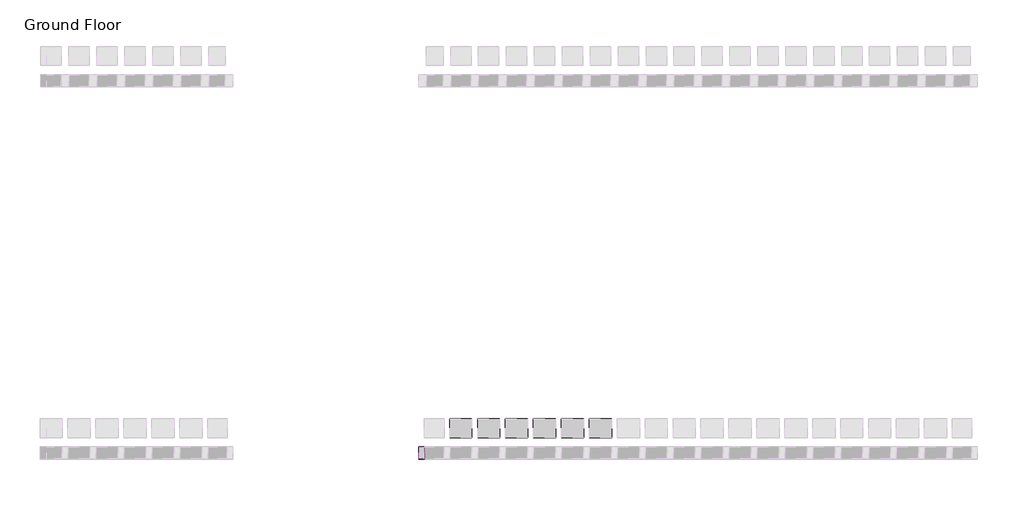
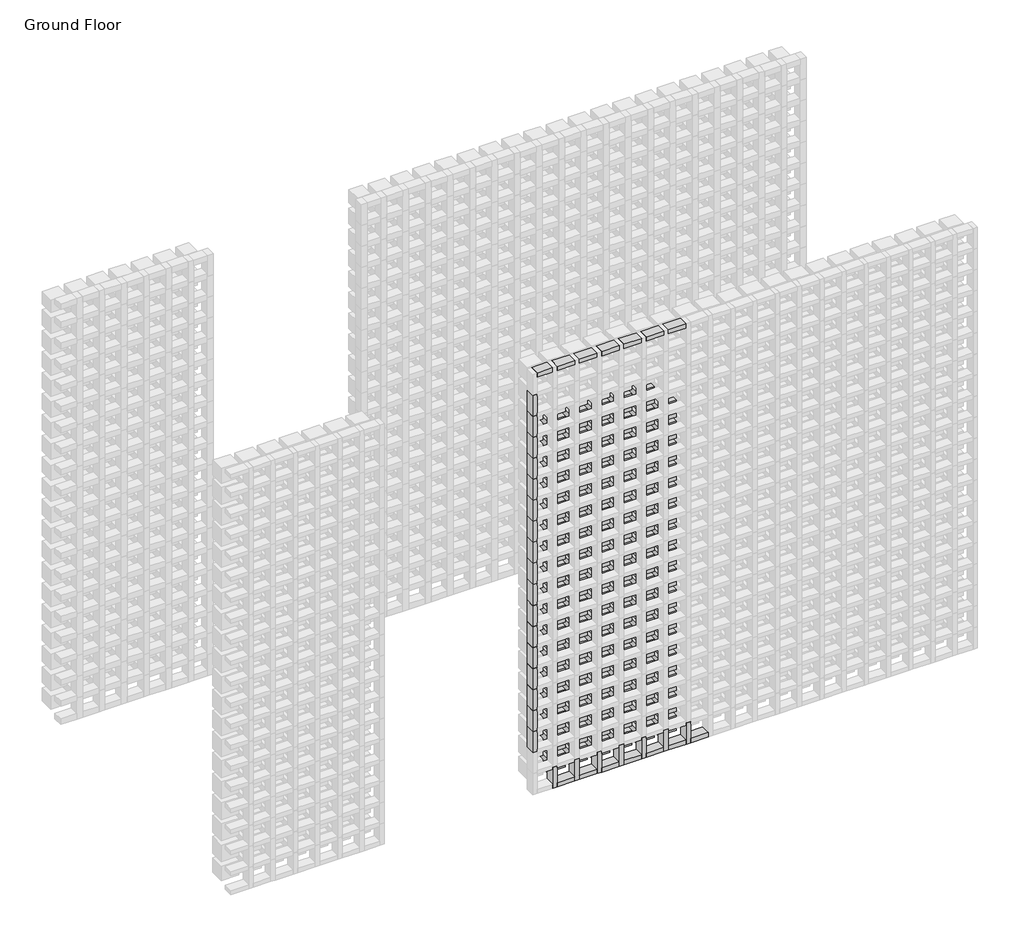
# One storey, part 65 of 350: 101 plates, 38 members.
"""IFC4 building model written with IfcOpenShell, lengths in millimetres."""

from ifc_helpers import new_model, si_unit, origin, place, context, project, spatial, transform, mapped, element, save
from components import rectangular_mullion_5b501421, rectangular_mullion_f2fcf417, rectangular_mullion_51467dcc, rectangular_mullion_d4c9a775, rectangular_mullion_ed01f2b6, empty_system_panel_empty_a57e421f, empty_system_panel_empty_fe50b430

model = new_model("IFC4")

# Units and contexts
model_context = context("Model", 3, world=origin())
ifc_project = project(units=[si_unit("LENGTHUNIT", "METRE", prefix="MILLI")], contexts=[model_context])

# Site, building, storey
site = spatial("IfcSite", under=ifc_project)
building = spatial("IfcBuilding", under=site)
storey = spatial("IfcBuildingStorey", under=building, Name="Ground Floor", Elevation=0.0)

# Members
placement = place(None, origin())
rectangular_mullion_shape = rectangular_mullion_5b501421(model_context)
element("IfcMember", 1, ObjectType="Rectangular Mullion : Batten_Timber_Modinex_Austratus_Grid_Fascia_30x65_Hemlock", at=placement, inside=storey, context=model_context, shape_type="MappedRepresentation", body=[
    mapped(rectangular_mullion_shape, transform((10066.4361642, 38968.2978302, 0.0), x_axis=(1.0, 0.0, 0.0), y_axis=(0.0, -1.0, 0.0), z_axis=(0.0, 0.0, -1.0))),
])
element("IfcMember", 2, ObjectType="Rectangular Mullion : Batten_Timber_Modinex_Austratus_Grid_Fascia_30x65_Hemlock", at=placement, inside=storey, context=model_context, shape_type="MappedRepresentation", body=[
    mapped(rectangular_mullion_shape, transform((10216.4361642, 38968.2978302, 0.0), x_axis=(1.0, 0.0, 0.0), y_axis=(0.0, -1.0, 0.0), z_axis=(0.0, 0.0, -1.0))),
])
element("IfcMember", 3, ObjectType="Rectangular Mullion : Batten_Timber_Modinex_Austratus_Grid_Fascia_30x65_Hemlock", at=placement, inside=storey, context=model_context, shape_type="MappedRepresentation", body=[
    mapped(rectangular_mullion_shape, transform((10366.4361642, 38968.2978302, 0.0), x_axis=(1.0, 0.0, 0.0), y_axis=(0.0, -1.0, 0.0), z_axis=(0.0, 0.0, -1.0))),
])
element("IfcMember", 4, ObjectType="Rectangular Mullion : Batten_Timber_Modinex_Austratus_Grid_Fascia_30x65_Hemlock", at=placement, inside=storey, context=model_context, shape_type="MappedRepresentation", body=[
    mapped(rectangular_mullion_shape, transform((10516.4361642, 38968.2978302, 0.0), x_axis=(1.0, 0.0, 0.0), y_axis=(0.0, -1.0, 0.0), z_axis=(0.0, 0.0, -1.0))),
])
element("IfcMember", 5, ObjectType="Rectangular Mullion : Batten_Timber_Modinex_Austratus_Grid_Fascia_30x65_Hemlock", at=placement, inside=storey, context=model_context, shape_type="MappedRepresentation", body=[
    mapped(rectangular_mullion_shape, transform((10666.4361642, 38968.2978302, 0.0), x_axis=(1.0, 0.0, 0.0), y_axis=(0.0, -1.0, 0.0), z_axis=(0.0, 0.0, -1.0))),
])
element("IfcMember", 6, ObjectType="Rectangular Mullion : Batten_Timber_Modinex_Austratus_Grid_Fascia_30x65_Hemlock", at=placement, inside=storey, context=model_context, shape_type="MappedRepresentation", body=[
    mapped(rectangular_mullion_shape, transform((10816.4361642, 38968.2978302, 0.0), x_axis=(1.0, 0.0, 0.0), y_axis=(0.0, -1.0, 0.0), z_axis=(0.0, 0.0, -1.0))),
])
element("IfcMember", 7, ObjectType="Rectangular Mullion : Batten_Timber_Modinex_Austratus_Grid_Fascia_30x65_Hemlock", at=placement, inside=storey, context=model_context, shape_type="MappedRepresentation", body=[
    mapped(rectangular_mullion_shape, transform((10966.4361642, 38968.2978302, 0.0), x_axis=(1.0, 0.0, 0.0), y_axis=(0.0, -1.0, 0.0), z_axis=(0.0, 0.0, -1.0))),
])
rectangular_mullion_2_shape = rectangular_mullion_f2fcf417(model_context)
element("IfcMember", 8, ObjectType="Rectangular Mullion : Batten_Timber_Modinex_Austratus_Grid_Fascia_30x65_Hemlock", at=placement, inside=storey, context=model_context, shape_type="MappedRepresentation", body=[
    mapped(rectangular_mullion_2_shape, transform((10051.4361642, 38968.2978302, 3000.0), x_axis=(0.0, 0.0, 1.0), y_axis=(0.0, -1.0, 0.0), z_axis=(1.0, 0.0, 0.0))),
])
rectangular_mullion_3_shape = rectangular_mullion_51467dcc(model_context)
element("IfcMember", 9, ObjectType="Rectangular Mullion : Batten_Timber_Modinex_Austratus_Grid_Fascia_30x65_Hemlock", at=placement, inside=storey, context=model_context, shape_type="MappedRepresentation", body=[
    mapped(rectangular_mullion_3_shape, transform((10201.4361642, 38968.2978302, 3000.0), x_axis=(0.0, 0.0, 1.0), y_axis=(0.0, -1.0, 0.0), z_axis=(1.0, 0.0, 0.0))),
])
element("IfcMember", 10, ObjectType="Rectangular Mullion : Batten_Timber_Modinex_Austratus_Grid_Fascia_30x65_Hemlock", at=placement, inside=storey, context=model_context, shape_type="MappedRepresentation", body=[
    mapped(rectangular_mullion_3_shape, transform((10351.4361642, 38968.2978302, 3000.0), x_axis=(0.0, 0.0, 1.0), y_axis=(0.0, -1.0, 0.0), z_axis=(1.0, 0.0, 0.0))),
])
element("IfcMember", 11, ObjectType="Rectangular Mullion : Batten_Timber_Modinex_Austratus_Grid_Fascia_30x65_Hemlock", at=placement, inside=storey, context=model_context, shape_type="MappedRepresentation", body=[
    mapped(rectangular_mullion_3_shape, transform((10501.4361642, 38968.2978302, 3000.0), x_axis=(0.0, 0.0, 1.0), y_axis=(0.0, -1.0, 0.0), z_axis=(1.0, 0.0, 0.0))),
])
element("IfcMember", 12, ObjectType="Rectangular Mullion : Batten_Timber_Modinex_Austratus_Grid_Fascia_30x65_Hemlock", at=placement, inside=storey, context=model_context, shape_type="MappedRepresentation", body=[
    mapped(rectangular_mullion_3_shape, transform((10651.4361642, 38968.2978302, 3000.0), x_axis=(0.0, 0.0, 1.0), y_axis=(0.0, -1.0, 0.0), z_axis=(1.0, 0.0, 0.0))),
])
element("IfcMember", 13, ObjectType="Rectangular Mullion : Batten_Timber_Modinex_Austratus_Grid_Fascia_30x65_Hemlock", at=placement, inside=storey, context=model_context, shape_type="MappedRepresentation", body=[
    mapped(rectangular_mullion_3_shape, transform((10801.4361642, 38968.2978302, 3000.0), x_axis=(0.0, 0.0, 1.0), y_axis=(0.0, -1.0, 0.0), z_axis=(1.0, 0.0, 0.0))),
])
element("IfcMember", 14, ObjectType="Rectangular Mullion : Batten_Timber_Modinex_Austratus_Grid_Fascia_30x65_Hemlock", at=placement, inside=storey, context=model_context, shape_type="MappedRepresentation", body=[
    mapped(rectangular_mullion_3_shape, transform((10951.4361642, 38968.2978302, 3000.0), x_axis=(0.0, 0.0, 1.0), y_axis=(0.0, -1.0, 0.0), z_axis=(1.0, 0.0, 0.0))),
])
rectangular_mullion_4_shape = rectangular_mullion_d4c9a775(model_context)
element("IfcMember", 15, ObjectType="Rectangular Mullion : Batten_Timber_Modinex_Austratus_Grid_Fascia_30x65_Hemlock", at=placement, inside=storey, context=model_context, shape_type="MappedRepresentation", body=[
    mapped(rectangular_mullion_4_shape, transform((10081.4361642, 38968.2978302, 0.0), x_axis=(0.0, 0.0, -1.0), y_axis=(0.0, -1.0, 0.0), z_axis=(-1.0, 0.0, 0.0))),
])
element("IfcMember", 16, ObjectType="Rectangular Mullion : Batten_Timber_Modinex_Austratus_Grid_Fascia_30x65_Hemlock", at=placement, inside=storey, context=model_context, shape_type="MappedRepresentation", body=[
    mapped(rectangular_mullion_4_shape, transform((10231.4361642, 38968.2978302, 0.0), x_axis=(0.0, 0.0, -1.0), y_axis=(0.0, -1.0, 0.0), z_axis=(-1.0, 0.0, 0.0))),
])
element("IfcMember", 17, ObjectType="Rectangular Mullion : Batten_Timber_Modinex_Austratus_Grid_Fascia_30x65_Hemlock", at=placement, inside=storey, context=model_context, shape_type="MappedRepresentation", body=[
    mapped(rectangular_mullion_4_shape, transform((10381.4361642, 38968.2978302, 0.0), x_axis=(0.0, 0.0, -1.0), y_axis=(0.0, -1.0, 0.0), z_axis=(-1.0, 0.0, 0.0))),
])
element("IfcMember", 18, ObjectType="Rectangular Mullion : Batten_Timber_Modinex_Austratus_Grid_Fascia_30x65_Hemlock", at=placement, inside=storey, context=model_context, shape_type="MappedRepresentation", body=[
    mapped(rectangular_mullion_4_shape, transform((10531.4361642, 38968.2978302, 0.0), x_axis=(0.0, 0.0, -1.0), y_axis=(0.0, -1.0, 0.0), z_axis=(-1.0, 0.0, 0.0))),
])
element("IfcMember", 19, ObjectType="Rectangular Mullion : Batten_Timber_Modinex_Austratus_Grid_Fascia_30x65_Hemlock", at=placement, inside=storey, context=model_context, shape_type="MappedRepresentation", body=[
    mapped(rectangular_mullion_4_shape, transform((10681.4361642, 38968.2978302, 0.0), x_axis=(0.0, 0.0, -1.0), y_axis=(0.0, -1.0, 0.0), z_axis=(-1.0, 0.0, 0.0))),
])
element("IfcMember", 20, ObjectType="Rectangular Mullion : Batten_Timber_Modinex_Austratus_Grid_Fascia_30x65_Hemlock", at=placement, inside=storey, context=model_context, shape_type="MappedRepresentation", body=[
    mapped(rectangular_mullion_4_shape, transform((10831.4361642, 38968.2978302, 0.0), x_axis=(0.0, 0.0, -1.0), y_axis=(0.0, -1.0, 0.0), z_axis=(-1.0, 0.0, 0.0))),
])
element("IfcMember", 21, ObjectType="Rectangular Mullion : Batten_Timber_Modinex_Austratus_Grid_Fascia_30x65_Hemlock", at=placement, inside=storey, context=model_context, shape_type="MappedRepresentation", body=[
    mapped(rectangular_mullion_4_shape, transform((10981.4361642, 38968.2978302, 0.0), x_axis=(0.0, 0.0, -1.0), y_axis=(0.0, -1.0, 0.0), z_axis=(-1.0, 0.0, 0.0))),
])
rectangular_mullion_5_shape = rectangular_mullion_ed01f2b6(model_context)
element("IfcMember", 22, ObjectType="Rectangular Mullion : Batten_Timber_Modinex_Austratus_Grid_Fascia_30x65_Hemlock", at=placement, inside=storey, context=model_context, shape_type="MappedRepresentation", body=[
    mapped(rectangular_mullion_5_shape, transform((9916.4361639, 38968.2978302, 450.0), x_axis=(-1.0, 0.0, 0.0), y_axis=(0.0, -1.0, 0.0), z_axis=(0.0, 0.0, 1.0))),
])
element("IfcMember", 23, ObjectType="Rectangular Mullion : Batten_Timber_Modinex_Austratus_Grid_Fascia_30x65_Hemlock", at=placement, inside=storey, context=model_context, shape_type="MappedRepresentation", body=[
    mapped(rectangular_mullion_5_shape, transform((9916.4361639, 38968.2978302, 600.0), x_axis=(-1.0, 0.0, 0.0), y_axis=(0.0, -1.0, 0.0), z_axis=(0.0, 0.0, 1.0))),
])
element("IfcMember", 24, ObjectType="Rectangular Mullion : Batten_Timber_Modinex_Austratus_Grid_Fascia_30x65_Hemlock", at=placement, inside=storey, context=model_context, shape_type="MappedRepresentation", body=[
    mapped(rectangular_mullion_5_shape, transform((9916.4361639, 38968.2978302, 750.0), x_axis=(-1.0, 0.0, 0.0), y_axis=(0.0, -1.0, 0.0), z_axis=(0.0, 0.0, 1.0))),
])
element("IfcMember", 25, ObjectType="Rectangular Mullion : Batten_Timber_Modinex_Austratus_Grid_Fascia_30x65_Hemlock", at=placement, inside=storey, context=model_context, shape_type="MappedRepresentation", body=[
    mapped(rectangular_mullion_5_shape, transform((9916.4361639, 38968.2978302, 900.0), x_axis=(-1.0, 0.0, 0.0), y_axis=(0.0, -1.0, 0.0), z_axis=(0.0, 0.0, 1.0))),
])
element("IfcMember", 26, ObjectType="Rectangular Mullion : Batten_Timber_Modinex_Austratus_Grid_Fascia_30x65_Hemlock", at=placement, inside=storey, context=model_context, shape_type="MappedRepresentation", body=[
    mapped(rectangular_mullion_5_shape, transform((9916.4361639, 38968.2978302, 1050.0), x_axis=(-1.0, 0.0, 0.0), y_axis=(0.0, -1.0, 0.0), z_axis=(0.0, 0.0, 1.0))),
])
element("IfcMember", 27, ObjectType="Rectangular Mullion : Batten_Timber_Modinex_Austratus_Grid_Fascia_30x65_Hemlock", at=placement, inside=storey, context=model_context, shape_type="MappedRepresentation", body=[
    mapped(rectangular_mullion_5_shape, transform((9916.4361639, 38968.2978302, 1200.0), x_axis=(-1.0, 0.0, 0.0), y_axis=(0.0, -1.0, 0.0), z_axis=(0.0, 0.0, 1.0))),
])
element("IfcMember", 28, ObjectType="Rectangular Mullion : Batten_Timber_Modinex_Austratus_Grid_Fascia_30x65_Hemlock", at=placement, inside=storey, context=model_context, shape_type="MappedRepresentation", body=[
    mapped(rectangular_mullion_5_shape, transform((9916.4361639, 38968.2978302, 1350.0), x_axis=(-1.0, 0.0, 0.0), y_axis=(0.0, -1.0, 0.0), z_axis=(0.0, 0.0, 1.0))),
])
element("IfcMember", 29, ObjectType="Rectangular Mullion : Batten_Timber_Modinex_Austratus_Grid_Fascia_30x65_Hemlock", at=placement, inside=storey, context=model_context, shape_type="MappedRepresentation", body=[
    mapped(rectangular_mullion_5_shape, transform((9916.4361639, 38968.2978302, 1500.0), x_axis=(-1.0, 0.0, 0.0), y_axis=(0.0, -1.0, 0.0), z_axis=(0.0, 0.0, 1.0))),
])
element("IfcMember", 30, ObjectType="Rectangular Mullion : Batten_Timber_Modinex_Austratus_Grid_Fascia_30x65_Hemlock", at=placement, inside=storey, context=model_context, shape_type="MappedRepresentation", body=[
    mapped(rectangular_mullion_5_shape, transform((9916.4361639, 38968.2978302, 1650.0), x_axis=(-1.0, 0.0, 0.0), y_axis=(0.0, -1.0, 0.0), z_axis=(0.0, 0.0, 1.0))),
])
element("IfcMember", 31, ObjectType="Rectangular Mullion : Batten_Timber_Modinex_Austratus_Grid_Fascia_30x65_Hemlock", at=placement, inside=storey, context=model_context, shape_type="MappedRepresentation", body=[
    mapped(rectangular_mullion_5_shape, transform((9916.4361639, 38968.2978302, 1800.0), x_axis=(-1.0, 0.0, 0.0), y_axis=(0.0, -1.0, 0.0), z_axis=(0.0, 0.0, 1.0))),
])
element("IfcMember", 32, ObjectType="Rectangular Mullion : Batten_Timber_Modinex_Austratus_Grid_Fascia_30x65_Hemlock", at=placement, inside=storey, context=model_context, shape_type="MappedRepresentation", body=[
    mapped(rectangular_mullion_5_shape, transform((9916.4361639, 38968.2978302, 1950.0), x_axis=(-1.0, 0.0, 0.0), y_axis=(0.0, -1.0, 0.0), z_axis=(0.0, 0.0, 1.0))),
])
element("IfcMember", 33, ObjectType="Rectangular Mullion : Batten_Timber_Modinex_Austratus_Grid_Fascia_30x65_Hemlock", at=placement, inside=storey, context=model_context, shape_type="MappedRepresentation", body=[
    mapped(rectangular_mullion_5_shape, transform((9916.4361639, 38968.2978302, 2100.0), x_axis=(-1.0, 0.0, 0.0), y_axis=(0.0, -1.0, 0.0), z_axis=(0.0, 0.0, 1.0))),
])
element("IfcMember", 34, ObjectType="Rectangular Mullion : Batten_Timber_Modinex_Austratus_Grid_Fascia_30x65_Hemlock", at=placement, inside=storey, context=model_context, shape_type="MappedRepresentation", body=[
    mapped(rectangular_mullion_5_shape, transform((9916.4361639, 38968.2978302, 2250.0), x_axis=(-1.0, 0.0, 0.0), y_axis=(0.0, -1.0, 0.0), z_axis=(0.0, 0.0, 1.0))),
])
element("IfcMember", 35, ObjectType="Rectangular Mullion : Batten_Timber_Modinex_Austratus_Grid_Fascia_30x65_Hemlock", at=placement, inside=storey, context=model_context, shape_type="MappedRepresentation", body=[
    mapped(rectangular_mullion_5_shape, transform((9916.4361639, 38968.2978302, 2400.0), x_axis=(-1.0, 0.0, 0.0), y_axis=(0.0, -1.0, 0.0), z_axis=(0.0, 0.0, 1.0))),
])
element("IfcMember", 36, ObjectType="Rectangular Mullion : Batten_Timber_Modinex_Austratus_Grid_Fascia_30x65_Hemlock", at=placement, inside=storey, context=model_context, shape_type="MappedRepresentation", body=[
    mapped(rectangular_mullion_5_shape, transform((9916.4361639, 38968.2978302, 2550.0), x_axis=(-1.0, 0.0, 0.0), y_axis=(0.0, -1.0, 0.0), z_axis=(0.0, 0.0, 1.0))),
])
element("IfcMember", 37, ObjectType="Rectangular Mullion : Batten_Timber_Modinex_Austratus_Grid_Fascia_30x65_Hemlock", at=placement, inside=storey, context=model_context, shape_type="MappedRepresentation", body=[
    mapped(rectangular_mullion_5_shape, transform((9916.4361639, 38968.2978302, 2700.0), x_axis=(-1.0, 0.0, 0.0), y_axis=(0.0, -1.0, 0.0), z_axis=(0.0, 0.0, 1.0))),
])
element("IfcMember", 38, ObjectType="Rectangular Mullion : Batten_Timber_Modinex_Austratus_Grid_Fascia_30x65_Hemlock", at=placement, inside=storey, context=model_context, shape_type="MappedRepresentation", body=[
    mapped(rectangular_mullion_5_shape, transform((9916.4361639, 38968.2978302, 2850.0), x_axis=(-1.0, 0.0, 0.0), y_axis=(0.0, -1.0, 0.0), z_axis=(0.0, 0.0, 1.0))),
])

# Plates
empty_system_panel_empty_shape = empty_system_panel_empty_a57e421f(model_context)
element("IfcPlate", 39, ObjectType="Empty System Panel : Empty", at=placement, inside=storey, context=model_context, shape_type="MappedRepresentation", body=[
    mapped(empty_system_panel_empty_shape, transform((10141.4361642, 38968.2978302, 165.0), x_axis=(1.0, 0.0, 0.0), y_axis=(0.0, 1.0, 0.0), z_axis=(0.0, 0.0, 1.0))),
])
element("IfcPlate", 40, ObjectType="Empty System Panel : Empty", at=placement, inside=storey, context=model_context, shape_type="MappedRepresentation", body=[
    mapped(empty_system_panel_empty_shape, transform((10291.4361642, 38968.2978302, 165.0), x_axis=(1.0, 0.0, 0.0), y_axis=(0.0, 1.0, 0.0), z_axis=(0.0, 0.0, 1.0))),
])
element("IfcPlate", 41, ObjectType="Empty System Panel : Empty", at=placement, inside=storey, context=model_context, shape_type="MappedRepresentation", body=[
    mapped(empty_system_panel_empty_shape, transform((10441.4361642, 38968.2978302, 165.0), x_axis=(1.0, 0.0, 0.0), y_axis=(0.0, 1.0, 0.0), z_axis=(0.0, 0.0, 1.0))),
])
element("IfcPlate", 42, ObjectType="Empty System Panel : Empty", at=placement, inside=storey, context=model_context, shape_type="MappedRepresentation", body=[
    mapped(empty_system_panel_empty_shape, transform((10591.4361642, 38968.2978302, 165.0), x_axis=(1.0, 0.0, 0.0), y_axis=(0.0, 1.0, 0.0), z_axis=(0.0, 0.0, 1.0))),
])
element("IfcPlate", 43, ObjectType="Empty System Panel : Empty", at=placement, inside=storey, context=model_context, shape_type="MappedRepresentation", body=[
    mapped(empty_system_panel_empty_shape, transform((10741.4361642, 38968.2978302, 165.0), x_axis=(1.0, 0.0, 0.0), y_axis=(0.0, 1.0, 0.0), z_axis=(0.0, 0.0, 1.0))),
])
element("IfcPlate", 44, ObjectType="Empty System Panel : Empty", at=placement, inside=storey, context=model_context, shape_type="MappedRepresentation", body=[
    mapped(empty_system_panel_empty_shape, transform((10891.4361642, 38968.2978302, 165.0), x_axis=(1.0, 0.0, 0.0), y_axis=(0.0, 1.0, 0.0), z_axis=(0.0, 0.0, 1.0))),
])
element("IfcPlate", 45, ObjectType="Empty System Panel : Empty", at=placement, inside=storey, context=model_context, shape_type="MappedRepresentation", body=[
    mapped(empty_system_panel_empty_shape, transform((10141.4361642, 38968.2978302, 315.0), x_axis=(1.0, 0.0, 0.0), y_axis=(0.0, 1.0, 0.0), z_axis=(0.0, 0.0, 1.0))),
])
element("IfcPlate", 46, ObjectType="Empty System Panel : Empty", at=placement, inside=storey, context=model_context, shape_type="MappedRepresentation", body=[
    mapped(empty_system_panel_empty_shape, transform((10291.4361642, 38968.2978302, 315.0), x_axis=(1.0, 0.0, 0.0), y_axis=(0.0, 1.0, 0.0), z_axis=(0.0, 0.0, 1.0))),
])
element("IfcPlate", 47, ObjectType="Empty System Panel : Empty", at=placement, inside=storey, context=model_context, shape_type="MappedRepresentation", body=[
    mapped(empty_system_panel_empty_shape, transform((10441.4361642, 38968.2978302, 315.0), x_axis=(1.0, 0.0, 0.0), y_axis=(0.0, 1.0, 0.0), z_axis=(0.0, 0.0, 1.0))),
])
element("IfcPlate", 48, ObjectType="Empty System Panel : Empty", at=placement, inside=storey, context=model_context, shape_type="MappedRepresentation", body=[
    mapped(empty_system_panel_empty_shape, transform((10591.4361642, 38968.2978302, 315.0), x_axis=(1.0, 0.0, 0.0), y_axis=(0.0, 1.0, 0.0), z_axis=(0.0, 0.0, 1.0))),
])
element("IfcPlate", 49, ObjectType="Empty System Panel : Empty", at=placement, inside=storey, context=model_context, shape_type="MappedRepresentation", body=[
    mapped(empty_system_panel_empty_shape, transform((10741.4361642, 38968.2978302, 315.0), x_axis=(1.0, 0.0, 0.0), y_axis=(0.0, 1.0, 0.0), z_axis=(0.0, 0.0, 1.0))),
])
element("IfcPlate", 50, ObjectType="Empty System Panel : Empty", at=placement, inside=storey, context=model_context, shape_type="MappedRepresentation", body=[
    mapped(empty_system_panel_empty_shape, transform((10891.4361642, 38968.2978302, 315.0), x_axis=(1.0, 0.0, 0.0), y_axis=(0.0, 1.0, 0.0), z_axis=(0.0, 0.0, 1.0))),
])
element("IfcPlate", 51, ObjectType="Empty System Panel : Empty", at=placement, inside=storey, context=model_context, shape_type="MappedRepresentation", body=[
    mapped(empty_system_panel_empty_shape, transform((10141.4361642, 38968.2978302, 465.0), x_axis=(1.0, 0.0, 0.0), y_axis=(0.0, 1.0, 0.0), z_axis=(0.0, 0.0, 1.0))),
])
element("IfcPlate", 52, ObjectType="Empty System Panel : Empty", at=placement, inside=storey, context=model_context, shape_type="MappedRepresentation", body=[
    mapped(empty_system_panel_empty_shape, transform((10291.4361642, 38968.2978302, 465.0), x_axis=(1.0, 0.0, 0.0), y_axis=(0.0, 1.0, 0.0), z_axis=(0.0, 0.0, 1.0))),
])
element("IfcPlate", 53, ObjectType="Empty System Panel : Empty", at=placement, inside=storey, context=model_context, shape_type="MappedRepresentation", body=[
    mapped(empty_system_panel_empty_shape, transform((10441.4361642, 38968.2978302, 465.0), x_axis=(1.0, 0.0, 0.0), y_axis=(0.0, 1.0, 0.0), z_axis=(0.0, 0.0, 1.0))),
])
element("IfcPlate", 54, ObjectType="Empty System Panel : Empty", at=placement, inside=storey, context=model_context, shape_type="MappedRepresentation", body=[
    mapped(empty_system_panel_empty_shape, transform((10591.4361642, 38968.2978302, 465.0), x_axis=(1.0, 0.0, 0.0), y_axis=(0.0, 1.0, 0.0), z_axis=(0.0, 0.0, 1.0))),
])
element("IfcPlate", 55, ObjectType="Empty System Panel : Empty", at=placement, inside=storey, context=model_context, shape_type="MappedRepresentation", body=[
    mapped(empty_system_panel_empty_shape, transform((10741.4361642, 38968.2978302, 465.0), x_axis=(1.0, 0.0, 0.0), y_axis=(0.0, 1.0, 0.0), z_axis=(0.0, 0.0, 1.0))),
])
element("IfcPlate", 56, ObjectType="Empty System Panel : Empty", at=placement, inside=storey, context=model_context, shape_type="MappedRepresentation", body=[
    mapped(empty_system_panel_empty_shape, transform((10891.4361642, 38968.2978302, 465.0), x_axis=(1.0, 0.0, 0.0), y_axis=(0.0, 1.0, 0.0), z_axis=(0.0, 0.0, 1.0))),
])
element("IfcPlate", 57, ObjectType="Empty System Panel : Empty", at=placement, inside=storey, context=model_context, shape_type="MappedRepresentation", body=[
    mapped(empty_system_panel_empty_shape, transform((10141.4361642, 38968.2978302, 615.0), x_axis=(1.0, 0.0, 0.0), y_axis=(0.0, 1.0, 0.0), z_axis=(0.0, 0.0, 1.0))),
])
element("IfcPlate", 58, ObjectType="Empty System Panel : Empty", at=placement, inside=storey, context=model_context, shape_type="MappedRepresentation", body=[
    mapped(empty_system_panel_empty_shape, transform((10291.4361642, 38968.2978302, 615.0), x_axis=(1.0, 0.0, 0.0), y_axis=(0.0, 1.0, 0.0), z_axis=(0.0, 0.0, 1.0))),
])
element("IfcPlate", 59, ObjectType="Empty System Panel : Empty", at=placement, inside=storey, context=model_context, shape_type="MappedRepresentation", body=[
    mapped(empty_system_panel_empty_shape, transform((10441.4361642, 38968.2978302, 615.0), x_axis=(1.0, 0.0, 0.0), y_axis=(0.0, 1.0, 0.0), z_axis=(0.0, 0.0, 1.0))),
])
element("IfcPlate", 60, ObjectType="Empty System Panel : Empty", at=placement, inside=storey, context=model_context, shape_type="MappedRepresentation", body=[
    mapped(empty_system_panel_empty_shape, transform((10591.4361642, 38968.2978302, 615.0), x_axis=(1.0, 0.0, 0.0), y_axis=(0.0, 1.0, 0.0), z_axis=(0.0, 0.0, 1.0))),
])
element("IfcPlate", 61, ObjectType="Empty System Panel : Empty", at=placement, inside=storey, context=model_context, shape_type="MappedRepresentation", body=[
    mapped(empty_system_panel_empty_shape, transform((10741.4361642, 38968.2978302, 615.0), x_axis=(1.0, 0.0, 0.0), y_axis=(0.0, 1.0, 0.0), z_axis=(0.0, 0.0, 1.0))),
])
element("IfcPlate", 62, ObjectType="Empty System Panel : Empty", at=placement, inside=storey, context=model_context, shape_type="MappedRepresentation", body=[
    mapped(empty_system_panel_empty_shape, transform((10891.4361642, 38968.2978302, 615.0), x_axis=(1.0, 0.0, 0.0), y_axis=(0.0, 1.0, 0.0), z_axis=(0.0, 0.0, 1.0))),
])
element("IfcPlate", 63, ObjectType="Empty System Panel : Empty", at=placement, inside=storey, context=model_context, shape_type="MappedRepresentation", body=[
    mapped(empty_system_panel_empty_shape, transform((10141.4361642, 38968.2978302, 765.0), x_axis=(1.0, 0.0, 0.0), y_axis=(0.0, 1.0, 0.0), z_axis=(0.0, 0.0, 1.0))),
])
element("IfcPlate", 64, ObjectType="Empty System Panel : Empty", at=placement, inside=storey, context=model_context, shape_type="MappedRepresentation", body=[
    mapped(empty_system_panel_empty_shape, transform((10291.4361642, 38968.2978302, 765.0), x_axis=(1.0, 0.0, 0.0), y_axis=(0.0, 1.0, 0.0), z_axis=(0.0, 0.0, 1.0))),
])
element("IfcPlate", 65, ObjectType="Empty System Panel : Empty", at=placement, inside=storey, context=model_context, shape_type="MappedRepresentation", body=[
    mapped(empty_system_panel_empty_shape, transform((10441.4361642, 38968.2978302, 765.0), x_axis=(1.0, 0.0, 0.0), y_axis=(0.0, 1.0, 0.0), z_axis=(0.0, 0.0, 1.0))),
])
element("IfcPlate", 66, ObjectType="Empty System Panel : Empty", at=placement, inside=storey, context=model_context, shape_type="MappedRepresentation", body=[
    mapped(empty_system_panel_empty_shape, transform((10591.4361642, 38968.2978302, 765.0), x_axis=(1.0, 0.0, 0.0), y_axis=(0.0, 1.0, 0.0), z_axis=(0.0, 0.0, 1.0))),
])
element("IfcPlate", 67, ObjectType="Empty System Panel : Empty", at=placement, inside=storey, context=model_context, shape_type="MappedRepresentation", body=[
    mapped(empty_system_panel_empty_shape, transform((10741.4361642, 38968.2978302, 765.0), x_axis=(1.0, 0.0, 0.0), y_axis=(0.0, 1.0, 0.0), z_axis=(0.0, 0.0, 1.0))),
])
element("IfcPlate", 68, ObjectType="Empty System Panel : Empty", at=placement, inside=storey, context=model_context, shape_type="MappedRepresentation", body=[
    mapped(empty_system_panel_empty_shape, transform((10891.4361642, 38968.2978302, 765.0), x_axis=(1.0, 0.0, 0.0), y_axis=(0.0, 1.0, 0.0), z_axis=(0.0, 0.0, 1.0))),
])
element("IfcPlate", 69, ObjectType="Empty System Panel : Empty", at=placement, inside=storey, context=model_context, shape_type="MappedRepresentation", body=[
    mapped(empty_system_panel_empty_shape, transform((10141.4361642, 38968.2978302, 915.0), x_axis=(1.0, 0.0, 0.0), y_axis=(0.0, 1.0, 0.0), z_axis=(0.0, 0.0, 1.0))),
])
element("IfcPlate", 70, ObjectType="Empty System Panel : Empty", at=placement, inside=storey, context=model_context, shape_type="MappedRepresentation", body=[
    mapped(empty_system_panel_empty_shape, transform((10291.4361642, 38968.2978302, 915.0), x_axis=(1.0, 0.0, 0.0), y_axis=(0.0, 1.0, 0.0), z_axis=(0.0, 0.0, 1.0))),
])
element("IfcPlate", 71, ObjectType="Empty System Panel : Empty", at=placement, inside=storey, context=model_context, shape_type="MappedRepresentation", body=[
    mapped(empty_system_panel_empty_shape, transform((10441.4361642, 38968.2978302, 915.0), x_axis=(1.0, 0.0, 0.0), y_axis=(0.0, 1.0, 0.0), z_axis=(0.0, 0.0, 1.0))),
])
element("IfcPlate", 72, ObjectType="Empty System Panel : Empty", at=placement, inside=storey, context=model_context, shape_type="MappedRepresentation", body=[
    mapped(empty_system_panel_empty_shape, transform((10591.4361642, 38968.2978302, 915.0), x_axis=(1.0, 0.0, 0.0), y_axis=(0.0, 1.0, 0.0), z_axis=(0.0, 0.0, 1.0))),
])
element("IfcPlate", 73, ObjectType="Empty System Panel : Empty", at=placement, inside=storey, context=model_context, shape_type="MappedRepresentation", body=[
    mapped(empty_system_panel_empty_shape, transform((10741.4361642, 38968.2978302, 915.0), x_axis=(1.0, 0.0, 0.0), y_axis=(0.0, 1.0, 0.0), z_axis=(0.0, 0.0, 1.0))),
])
element("IfcPlate", 74, ObjectType="Empty System Panel : Empty", at=placement, inside=storey, context=model_context, shape_type="MappedRepresentation", body=[
    mapped(empty_system_panel_empty_shape, transform((10891.4361642, 38968.2978302, 915.0), x_axis=(1.0, 0.0, 0.0), y_axis=(0.0, 1.0, 0.0), z_axis=(0.0, 0.0, 1.0))),
])
element("IfcPlate", 75, ObjectType="Empty System Panel : Empty", at=placement, inside=storey, context=model_context, shape_type="MappedRepresentation", body=[
    mapped(empty_system_panel_empty_shape, transform((10141.4361642, 38968.2978302, 1065.0), x_axis=(1.0, 0.0, 0.0), y_axis=(0.0, 1.0, 0.0), z_axis=(0.0, 0.0, 1.0))),
])
element("IfcPlate", 76, ObjectType="Empty System Panel : Empty", at=placement, inside=storey, context=model_context, shape_type="MappedRepresentation", body=[
    mapped(empty_system_panel_empty_shape, transform((10291.4361642, 38968.2978302, 1065.0), x_axis=(1.0, 0.0, 0.0), y_axis=(0.0, 1.0, 0.0), z_axis=(0.0, 0.0, 1.0))),
])
element("IfcPlate", 77, ObjectType="Empty System Panel : Empty", at=placement, inside=storey, context=model_context, shape_type="MappedRepresentation", body=[
    mapped(empty_system_panel_empty_shape, transform((10441.4361642, 38968.2978302, 1065.0), x_axis=(1.0, 0.0, 0.0), y_axis=(0.0, 1.0, 0.0), z_axis=(0.0, 0.0, 1.0))),
])
element("IfcPlate", 78, ObjectType="Empty System Panel : Empty", at=placement, inside=storey, context=model_context, shape_type="MappedRepresentation", body=[
    mapped(empty_system_panel_empty_shape, transform((10591.4361642, 38968.2978302, 1065.0), x_axis=(1.0, 0.0, 0.0), y_axis=(0.0, 1.0, 0.0), z_axis=(0.0, 0.0, 1.0))),
])
element("IfcPlate", 79, ObjectType="Empty System Panel : Empty", at=placement, inside=storey, context=model_context, shape_type="MappedRepresentation", body=[
    mapped(empty_system_panel_empty_shape, transform((10741.4361642, 38968.2978302, 1065.0), x_axis=(1.0, 0.0, 0.0), y_axis=(0.0, 1.0, 0.0), z_axis=(0.0, 0.0, 1.0))),
])
element("IfcPlate", 80, ObjectType="Empty System Panel : Empty", at=placement, inside=storey, context=model_context, shape_type="MappedRepresentation", body=[
    mapped(empty_system_panel_empty_shape, transform((10891.4361642, 38968.2978302, 1065.0), x_axis=(1.0, 0.0, 0.0), y_axis=(0.0, 1.0, 0.0), z_axis=(0.0, 0.0, 1.0))),
])
element("IfcPlate", 81, ObjectType="Empty System Panel : Empty", at=placement, inside=storey, context=model_context, shape_type="MappedRepresentation", body=[
    mapped(empty_system_panel_empty_shape, transform((10141.4361642, 38968.2978302, 1215.0), x_axis=(1.0, 0.0, 0.0), y_axis=(0.0, 1.0, 0.0), z_axis=(0.0, 0.0, 1.0))),
])
element("IfcPlate", 82, ObjectType="Empty System Panel : Empty", at=placement, inside=storey, context=model_context, shape_type="MappedRepresentation", body=[
    mapped(empty_system_panel_empty_shape, transform((10291.4361642, 38968.2978302, 1215.0), x_axis=(1.0, 0.0, 0.0), y_axis=(0.0, 1.0, 0.0), z_axis=(0.0, 0.0, 1.0))),
])
element("IfcPlate", 83, ObjectType="Empty System Panel : Empty", at=placement, inside=storey, context=model_context, shape_type="MappedRepresentation", body=[
    mapped(empty_system_panel_empty_shape, transform((10441.4361642, 38968.2978302, 1215.0), x_axis=(1.0, 0.0, 0.0), y_axis=(0.0, 1.0, 0.0), z_axis=(0.0, 0.0, 1.0))),
])
element("IfcPlate", 84, ObjectType="Empty System Panel : Empty", at=placement, inside=storey, context=model_context, shape_type="MappedRepresentation", body=[
    mapped(empty_system_panel_empty_shape, transform((10591.4361642, 38968.2978302, 1215.0), x_axis=(1.0, 0.0, 0.0), y_axis=(0.0, 1.0, 0.0), z_axis=(0.0, 0.0, 1.0))),
])
element("IfcPlate", 85, ObjectType="Empty System Panel : Empty", at=placement, inside=storey, context=model_context, shape_type="MappedRepresentation", body=[
    mapped(empty_system_panel_empty_shape, transform((10741.4361642, 38968.2978302, 1215.0), x_axis=(1.0, 0.0, 0.0), y_axis=(0.0, 1.0, 0.0), z_axis=(0.0, 0.0, 1.0))),
])
element("IfcPlate", 86, ObjectType="Empty System Panel : Empty", at=placement, inside=storey, context=model_context, shape_type="MappedRepresentation", body=[
    mapped(empty_system_panel_empty_shape, transform((10891.4361642, 38968.2978302, 1215.0), x_axis=(1.0, 0.0, 0.0), y_axis=(0.0, 1.0, 0.0), z_axis=(0.0, 0.0, 1.0))),
])
element("IfcPlate", 87, ObjectType="Empty System Panel : Empty", at=placement, inside=storey, context=model_context, shape_type="MappedRepresentation", body=[
    mapped(empty_system_panel_empty_shape, transform((10141.4361642, 38968.2978302, 1365.0), x_axis=(1.0, 0.0, 0.0), y_axis=(0.0, 1.0, 0.0), z_axis=(0.0, 0.0, 1.0))),
])
element("IfcPlate", 88, ObjectType="Empty System Panel : Empty", at=placement, inside=storey, context=model_context, shape_type="MappedRepresentation", body=[
    mapped(empty_system_panel_empty_shape, transform((10291.4361642, 38968.2978302, 1365.0), x_axis=(1.0, 0.0, 0.0), y_axis=(0.0, 1.0, 0.0), z_axis=(0.0, 0.0, 1.0))),
])
element("IfcPlate", 89, ObjectType="Empty System Panel : Empty", at=placement, inside=storey, context=model_context, shape_type="MappedRepresentation", body=[
    mapped(empty_system_panel_empty_shape, transform((10441.4361642, 38968.2978302, 1365.0), x_axis=(1.0, 0.0, 0.0), y_axis=(0.0, 1.0, 0.0), z_axis=(0.0, 0.0, 1.0))),
])
element("IfcPlate", 90, ObjectType="Empty System Panel : Empty", at=placement, inside=storey, context=model_context, shape_type="MappedRepresentation", body=[
    mapped(empty_system_panel_empty_shape, transform((10591.4361642, 38968.2978302, 1365.0), x_axis=(1.0, 0.0, 0.0), y_axis=(0.0, 1.0, 0.0), z_axis=(0.0, 0.0, 1.0))),
])
element("IfcPlate", 91, ObjectType="Empty System Panel : Empty", at=placement, inside=storey, context=model_context, shape_type="MappedRepresentation", body=[
    mapped(empty_system_panel_empty_shape, transform((10741.4361642, 38968.2978302, 1365.0), x_axis=(1.0, 0.0, 0.0), y_axis=(0.0, 1.0, 0.0), z_axis=(0.0, 0.0, 1.0))),
])
element("IfcPlate", 92, ObjectType="Empty System Panel : Empty", at=placement, inside=storey, context=model_context, shape_type="MappedRepresentation", body=[
    mapped(empty_system_panel_empty_shape, transform((10891.4361642, 38968.2978302, 1365.0), x_axis=(1.0, 0.0, 0.0), y_axis=(0.0, 1.0, 0.0), z_axis=(0.0, 0.0, 1.0))),
])
element("IfcPlate", 93, ObjectType="Empty System Panel : Empty", at=placement, inside=storey, context=model_context, shape_type="MappedRepresentation", body=[
    mapped(empty_system_panel_empty_shape, transform((10141.4361642, 38968.2978302, 1515.0), x_axis=(1.0, 0.0, 0.0), y_axis=(0.0, 1.0, 0.0), z_axis=(0.0, 0.0, 1.0))),
])
element("IfcPlate", 94, ObjectType="Empty System Panel : Empty", at=placement, inside=storey, context=model_context, shape_type="MappedRepresentation", body=[
    mapped(empty_system_panel_empty_shape, transform((10291.4361642, 38968.2978302, 1515.0), x_axis=(1.0, 0.0, 0.0), y_axis=(0.0, 1.0, 0.0), z_axis=(0.0, 0.0, 1.0))),
])
element("IfcPlate", 95, ObjectType="Empty System Panel : Empty", at=placement, inside=storey, context=model_context, shape_type="MappedRepresentation", body=[
    mapped(empty_system_panel_empty_shape, transform((10441.4361642, 38968.2978302, 1515.0), x_axis=(1.0, 0.0, 0.0), y_axis=(0.0, 1.0, 0.0), z_axis=(0.0, 0.0, 1.0))),
])
element("IfcPlate", 96, ObjectType="Empty System Panel : Empty", at=placement, inside=storey, context=model_context, shape_type="MappedRepresentation", body=[
    mapped(empty_system_panel_empty_shape, transform((10591.4361642, 38968.2978302, 1515.0), x_axis=(1.0, 0.0, 0.0), y_axis=(0.0, 1.0, 0.0), z_axis=(0.0, 0.0, 1.0))),
])
element("IfcPlate", 97, ObjectType="Empty System Panel : Empty", at=placement, inside=storey, context=model_context, shape_type="MappedRepresentation", body=[
    mapped(empty_system_panel_empty_shape, transform((10741.4361642, 38968.2978302, 1515.0), x_axis=(1.0, 0.0, 0.0), y_axis=(0.0, 1.0, 0.0), z_axis=(0.0, 0.0, 1.0))),
])
element("IfcPlate", 98, ObjectType="Empty System Panel : Empty", at=placement, inside=storey, context=model_context, shape_type="MappedRepresentation", body=[
    mapped(empty_system_panel_empty_shape, transform((10891.4361642, 38968.2978302, 1515.0), x_axis=(1.0, 0.0, 0.0), y_axis=(0.0, 1.0, 0.0), z_axis=(0.0, 0.0, 1.0))),
])
element("IfcPlate", 99, ObjectType="Empty System Panel : Empty", at=placement, inside=storey, context=model_context, shape_type="MappedRepresentation", body=[
    mapped(empty_system_panel_empty_shape, transform((10141.4361642, 38968.2978302, 1665.0), x_axis=(1.0, 0.0, 0.0), y_axis=(0.0, 1.0, 0.0), z_axis=(0.0, 0.0, 1.0))),
])
element("IfcPlate", 100, ObjectType="Empty System Panel : Empty", at=placement, inside=storey, context=model_context, shape_type="MappedRepresentation", body=[
    mapped(empty_system_panel_empty_shape, transform((10291.4361642, 38968.2978302, 1665.0), x_axis=(1.0, 0.0, 0.0), y_axis=(0.0, 1.0, 0.0), z_axis=(0.0, 0.0, 1.0))),
])
element("IfcPlate", 101, ObjectType="Empty System Panel : Empty", at=placement, inside=storey, context=model_context, shape_type="MappedRepresentation", body=[
    mapped(empty_system_panel_empty_shape, transform((10441.4361642, 38968.2978302, 1665.0), x_axis=(1.0, 0.0, 0.0), y_axis=(0.0, 1.0, 0.0), z_axis=(0.0, 0.0, 1.0))),
])
element("IfcPlate", 102, ObjectType="Empty System Panel : Empty", at=placement, inside=storey, context=model_context, shape_type="MappedRepresentation", body=[
    mapped(empty_system_panel_empty_shape, transform((10591.4361642, 38968.2978302, 1665.0), x_axis=(1.0, 0.0, 0.0), y_axis=(0.0, 1.0, 0.0), z_axis=(0.0, 0.0, 1.0))),
])
element("IfcPlate", 103, ObjectType="Empty System Panel : Empty", at=placement, inside=storey, context=model_context, shape_type="MappedRepresentation", body=[
    mapped(empty_system_panel_empty_shape, transform((10741.4361642, 38968.2978302, 1665.0), x_axis=(1.0, 0.0, 0.0), y_axis=(0.0, 1.0, 0.0), z_axis=(0.0, 0.0, 1.0))),
])
element("IfcPlate", 104, ObjectType="Empty System Panel : Empty", at=placement, inside=storey, context=model_context, shape_type="MappedRepresentation", body=[
    mapped(empty_system_panel_empty_shape, transform((10891.4361642, 38968.2978302, 1665.0), x_axis=(1.0, 0.0, 0.0), y_axis=(0.0, 1.0, 0.0), z_axis=(0.0, 0.0, 1.0))),
])
element("IfcPlate", 105, ObjectType="Empty System Panel : Empty", at=placement, inside=storey, context=model_context, shape_type="MappedRepresentation", body=[
    mapped(empty_system_panel_empty_shape, transform((10141.4361642, 38968.2978302, 1815.0), x_axis=(1.0, 0.0, 0.0), y_axis=(0.0, 1.0, 0.0), z_axis=(0.0, 0.0, 1.0))),
])
element("IfcPlate", 106, ObjectType="Empty System Panel : Empty", at=placement, inside=storey, context=model_context, shape_type="MappedRepresentation", body=[
    mapped(empty_system_panel_empty_shape, transform((10291.4361642, 38968.2978302, 1815.0), x_axis=(1.0, 0.0, 0.0), y_axis=(0.0, 1.0, 0.0), z_axis=(0.0, 0.0, 1.0))),
])
element("IfcPlate", 107, ObjectType="Empty System Panel : Empty", at=placement, inside=storey, context=model_context, shape_type="MappedRepresentation", body=[
    mapped(empty_system_panel_empty_shape, transform((10441.4361642, 38968.2978302, 1815.0), x_axis=(1.0, 0.0, 0.0), y_axis=(0.0, 1.0, 0.0), z_axis=(0.0, 0.0, 1.0))),
])
element("IfcPlate", 108, ObjectType="Empty System Panel : Empty", at=placement, inside=storey, context=model_context, shape_type="MappedRepresentation", body=[
    mapped(empty_system_panel_empty_shape, transform((10591.4361642, 38968.2978302, 1815.0), x_axis=(1.0, 0.0, 0.0), y_axis=(0.0, 1.0, 0.0), z_axis=(0.0, 0.0, 1.0))),
])
element("IfcPlate", 109, ObjectType="Empty System Panel : Empty", at=placement, inside=storey, context=model_context, shape_type="MappedRepresentation", body=[
    mapped(empty_system_panel_empty_shape, transform((10741.4361642, 38968.2978302, 1815.0), x_axis=(1.0, 0.0, 0.0), y_axis=(0.0, 1.0, 0.0), z_axis=(0.0, 0.0, 1.0))),
])
element("IfcPlate", 110, ObjectType="Empty System Panel : Empty", at=placement, inside=storey, context=model_context, shape_type="MappedRepresentation", body=[
    mapped(empty_system_panel_empty_shape, transform((10891.4361642, 38968.2978302, 1815.0), x_axis=(1.0, 0.0, 0.0), y_axis=(0.0, 1.0, 0.0), z_axis=(0.0, 0.0, 1.0))),
])
element("IfcPlate", 111, ObjectType="Empty System Panel : Empty", at=placement, inside=storey, context=model_context, shape_type="MappedRepresentation", body=[
    mapped(empty_system_panel_empty_shape, transform((10141.4361642, 38968.2978302, 1965.0), x_axis=(1.0, 0.0, 0.0), y_axis=(0.0, 1.0, 0.0), z_axis=(0.0, 0.0, 1.0))),
])
element("IfcPlate", 112, ObjectType="Empty System Panel : Empty", at=placement, inside=storey, context=model_context, shape_type="MappedRepresentation", body=[
    mapped(empty_system_panel_empty_shape, transform((10291.4361642, 38968.2978302, 1965.0), x_axis=(1.0, 0.0, 0.0), y_axis=(0.0, 1.0, 0.0), z_axis=(0.0, 0.0, 1.0))),
])
element("IfcPlate", 113, ObjectType="Empty System Panel : Empty", at=placement, inside=storey, context=model_context, shape_type="MappedRepresentation", body=[
    mapped(empty_system_panel_empty_shape, transform((10441.4361642, 38968.2978302, 1965.0), x_axis=(1.0, 0.0, 0.0), y_axis=(0.0, 1.0, 0.0), z_axis=(0.0, 0.0, 1.0))),
])
element("IfcPlate", 114, ObjectType="Empty System Panel : Empty", at=placement, inside=storey, context=model_context, shape_type="MappedRepresentation", body=[
    mapped(empty_system_panel_empty_shape, transform((10591.4361642, 38968.2978302, 1965.0), x_axis=(1.0, 0.0, 0.0), y_axis=(0.0, 1.0, 0.0), z_axis=(0.0, 0.0, 1.0))),
])
element("IfcPlate", 115, ObjectType="Empty System Panel : Empty", at=placement, inside=storey, context=model_context, shape_type="MappedRepresentation", body=[
    mapped(empty_system_panel_empty_shape, transform((10741.4361642, 38968.2978302, 1965.0), x_axis=(1.0, 0.0, 0.0), y_axis=(0.0, 1.0, 0.0), z_axis=(0.0, 0.0, 1.0))),
])
element("IfcPlate", 116, ObjectType="Empty System Panel : Empty", at=placement, inside=storey, context=model_context, shape_type="MappedRepresentation", body=[
    mapped(empty_system_panel_empty_shape, transform((10891.4361642, 38968.2978302, 1965.0), x_axis=(1.0, 0.0, 0.0), y_axis=(0.0, 1.0, 0.0), z_axis=(0.0, 0.0, 1.0))),
])
element("IfcPlate", 117, ObjectType="Empty System Panel : Empty", at=placement, inside=storey, context=model_context, shape_type="MappedRepresentation", body=[
    mapped(empty_system_panel_empty_shape, transform((10141.4361642, 38968.2978302, 2115.0), x_axis=(1.0, 0.0, 0.0), y_axis=(0.0, 1.0, 0.0), z_axis=(0.0, 0.0, 1.0))),
])
element("IfcPlate", 118, ObjectType="Empty System Panel : Empty", at=placement, inside=storey, context=model_context, shape_type="MappedRepresentation", body=[
    mapped(empty_system_panel_empty_shape, transform((10291.4361642, 38968.2978302, 2115.0), x_axis=(1.0, 0.0, 0.0), y_axis=(0.0, 1.0, 0.0), z_axis=(0.0, 0.0, 1.0))),
])
element("IfcPlate", 119, ObjectType="Empty System Panel : Empty", at=placement, inside=storey, context=model_context, shape_type="MappedRepresentation", body=[
    mapped(empty_system_panel_empty_shape, transform((10441.4361642, 38968.2978302, 2115.0), x_axis=(1.0, 0.0, 0.0), y_axis=(0.0, 1.0, 0.0), z_axis=(0.0, 0.0, 1.0))),
])
element("IfcPlate", 120, ObjectType="Empty System Panel : Empty", at=placement, inside=storey, context=model_context, shape_type="MappedRepresentation", body=[
    mapped(empty_system_panel_empty_shape, transform((10591.4361642, 38968.2978302, 2115.0), x_axis=(1.0, 0.0, 0.0), y_axis=(0.0, 1.0, 0.0), z_axis=(0.0, 0.0, 1.0))),
])
element("IfcPlate", 121, ObjectType="Empty System Panel : Empty", at=placement, inside=storey, context=model_context, shape_type="MappedRepresentation", body=[
    mapped(empty_system_panel_empty_shape, transform((10741.4361642, 38968.2978302, 2115.0), x_axis=(1.0, 0.0, 0.0), y_axis=(0.0, 1.0, 0.0), z_axis=(0.0, 0.0, 1.0))),
])
element("IfcPlate", 122, ObjectType="Empty System Panel : Empty", at=placement, inside=storey, context=model_context, shape_type="MappedRepresentation", body=[
    mapped(empty_system_panel_empty_shape, transform((10891.4361642, 38968.2978302, 2115.0), x_axis=(1.0, 0.0, 0.0), y_axis=(0.0, 1.0, 0.0), z_axis=(0.0, 0.0, 1.0))),
])
element("IfcPlate", 123, ObjectType="Empty System Panel : Empty", at=placement, inside=storey, context=model_context, shape_type="MappedRepresentation", body=[
    mapped(empty_system_panel_empty_shape, transform((10141.4361642, 38968.2978302, 2265.0), x_axis=(1.0, 0.0, 0.0), y_axis=(0.0, 1.0, 0.0), z_axis=(0.0, 0.0, 1.0))),
])
element("IfcPlate", 124, ObjectType="Empty System Panel : Empty", at=placement, inside=storey, context=model_context, shape_type="MappedRepresentation", body=[
    mapped(empty_system_panel_empty_shape, transform((10291.4361642, 38968.2978302, 2265.0), x_axis=(1.0, 0.0, 0.0), y_axis=(0.0, 1.0, 0.0), z_axis=(0.0, 0.0, 1.0))),
])
element("IfcPlate", 125, ObjectType="Empty System Panel : Empty", at=placement, inside=storey, context=model_context, shape_type="MappedRepresentation", body=[
    mapped(empty_system_panel_empty_shape, transform((10441.4361642, 38968.2978302, 2265.0), x_axis=(1.0, 0.0, 0.0), y_axis=(0.0, 1.0, 0.0), z_axis=(0.0, 0.0, 1.0))),
])
element("IfcPlate", 126, ObjectType="Empty System Panel : Empty", at=placement, inside=storey, context=model_context, shape_type="MappedRepresentation", body=[
    mapped(empty_system_panel_empty_shape, transform((10591.4361642, 38968.2978302, 2265.0), x_axis=(1.0, 0.0, 0.0), y_axis=(0.0, 1.0, 0.0), z_axis=(0.0, 0.0, 1.0))),
])
element("IfcPlate", 127, ObjectType="Empty System Panel : Empty", at=placement, inside=storey, context=model_context, shape_type="MappedRepresentation", body=[
    mapped(empty_system_panel_empty_shape, transform((10741.4361642, 38968.2978302, 2265.0), x_axis=(1.0, 0.0, 0.0), y_axis=(0.0, 1.0, 0.0), z_axis=(0.0, 0.0, 1.0))),
])
element("IfcPlate", 128, ObjectType="Empty System Panel : Empty", at=placement, inside=storey, context=model_context, shape_type="MappedRepresentation", body=[
    mapped(empty_system_panel_empty_shape, transform((10891.4361642, 38968.2978302, 2265.0), x_axis=(1.0, 0.0, 0.0), y_axis=(0.0, 1.0, 0.0), z_axis=(0.0, 0.0, 1.0))),
])
element("IfcPlate", 129, ObjectType="Empty System Panel : Empty", at=placement, inside=storey, context=model_context, shape_type="MappedRepresentation", body=[
    mapped(empty_system_panel_empty_shape, transform((10141.4361642, 38968.2978302, 2415.0), x_axis=(1.0, 0.0, 0.0), y_axis=(0.0, 1.0, 0.0), z_axis=(0.0, 0.0, 1.0))),
])
element("IfcPlate", 130, ObjectType="Empty System Panel : Empty", at=placement, inside=storey, context=model_context, shape_type="MappedRepresentation", body=[
    mapped(empty_system_panel_empty_shape, transform((10291.4361642, 38968.2978302, 2415.0), x_axis=(1.0, 0.0, 0.0), y_axis=(0.0, 1.0, 0.0), z_axis=(0.0, 0.0, 1.0))),
])
element("IfcPlate", 131, ObjectType="Empty System Panel : Empty", at=placement, inside=storey, context=model_context, shape_type="MappedRepresentation", body=[
    mapped(empty_system_panel_empty_shape, transform((10441.4361642, 38968.2978302, 2415.0), x_axis=(1.0, 0.0, 0.0), y_axis=(0.0, 1.0, 0.0), z_axis=(0.0, 0.0, 1.0))),
])
element("IfcPlate", 132, ObjectType="Empty System Panel : Empty", at=placement, inside=storey, context=model_context, shape_type="MappedRepresentation", body=[
    mapped(empty_system_panel_empty_shape, transform((10591.4361642, 38968.2978302, 2415.0), x_axis=(1.0, 0.0, 0.0), y_axis=(0.0, 1.0, 0.0), z_axis=(0.0, 0.0, 1.0))),
])
element("IfcPlate", 133, ObjectType="Empty System Panel : Empty", at=placement, inside=storey, context=model_context, shape_type="MappedRepresentation", body=[
    mapped(empty_system_panel_empty_shape, transform((10741.4361642, 38968.2978302, 2415.0), x_axis=(1.0, 0.0, 0.0), y_axis=(0.0, 1.0, 0.0), z_axis=(0.0, 0.0, 1.0))),
])
empty_system_panel_empty_2_shape = empty_system_panel_empty_fe50b430(model_context)
element("IfcPlate", 134, ObjectType="Empty System Panel : Empty", at=placement, inside=storey, context=model_context, shape_type="MappedRepresentation", body=[
    mapped(empty_system_panel_empty_2_shape, transform((10141.4361642, 38968.2978302, 30.0), x_axis=(1.0, 0.0, 0.0), y_axis=(0.0, 1.0, 0.0), z_axis=(0.0, 0.0, 1.0))),
])
element("IfcPlate", 135, ObjectType="Empty System Panel : Empty", at=placement, inside=storey, context=model_context, shape_type="MappedRepresentation", body=[
    mapped(empty_system_panel_empty_2_shape, transform((10291.4361642, 38968.2978302, 30.0), x_axis=(1.0, 0.0, 0.0), y_axis=(0.0, 1.0, 0.0), z_axis=(0.0, 0.0, 1.0))),
])
element("IfcPlate", 136, ObjectType="Empty System Panel : Empty", at=placement, inside=storey, context=model_context, shape_type="MappedRepresentation", body=[
    mapped(empty_system_panel_empty_2_shape, transform((10441.4361642, 38968.2978302, 30.0), x_axis=(1.0, 0.0, 0.0), y_axis=(0.0, 1.0, 0.0), z_axis=(0.0, 0.0, 1.0))),
])
element("IfcPlate", 137, ObjectType="Empty System Panel : Empty", at=placement, inside=storey, context=model_context, shape_type="MappedRepresentation", body=[
    mapped(empty_system_panel_empty_2_shape, transform((10591.4361642, 38968.2978302, 30.0), x_axis=(1.0, 0.0, 0.0), y_axis=(0.0, 1.0, 0.0), z_axis=(0.0, 0.0, 1.0))),
])
element("IfcPlate", 138, ObjectType="Empty System Panel : Empty", at=placement, inside=storey, context=model_context, shape_type="MappedRepresentation", body=[
    mapped(empty_system_panel_empty_2_shape, transform((10741.4361642, 38968.2978302, 30.0), x_axis=(1.0, 0.0, 0.0), y_axis=(0.0, 1.0, 0.0), z_axis=(0.0, 0.0, 1.0))),
])
element("IfcPlate", 139, ObjectType="Empty System Panel : Empty", at=placement, inside=storey, context=model_context, shape_type="MappedRepresentation", body=[
    mapped(empty_system_panel_empty_2_shape, transform((10891.4361642, 38968.2978302, 30.0), x_axis=(1.0, 0.0, 0.0), y_axis=(0.0, 1.0, 0.0), z_axis=(0.0, 0.0, 1.0))),
])

save(model, "model.ifc")
